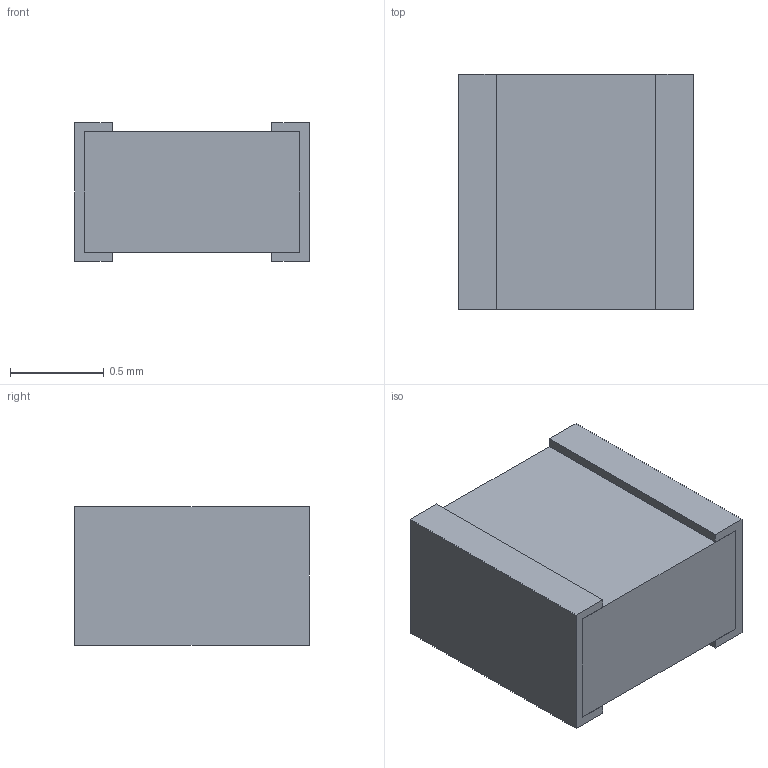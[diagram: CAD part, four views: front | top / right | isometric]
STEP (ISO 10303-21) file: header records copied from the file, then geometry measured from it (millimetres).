
FILE_DESCRIPTION(('STEP AP203'), '1');
FILE_NAME('0505-1', '', ('UNSPECIFIED'), ('UNSPECIFIED'), 'ASCON STEP Converter 1.6', 'ASCON Math Kernel', '');
FILE_SCHEMA(('CONFIG_CONTROL_DESIGN'));
Length unit declared in the file: millimetre
Bounding box: 1.25 x 1.25 x 0.74 mm (x, y, z)
Volume: 1 mm3; surface area: 11.6 mm2
Topology: 3 solids, 3 shells, 26 faces, 60 edges, 40 vertices
Faces by surface type: plane 26
Entity records: 988 total; most frequent: CARTESIAN_POINT 127, ORIENTED_EDGE 120, DIRECTION 114, EDGE_CURVE 60, LINE 60, VECTOR 60, VERTEX_POINT 40, COLOUR_RGB 29
